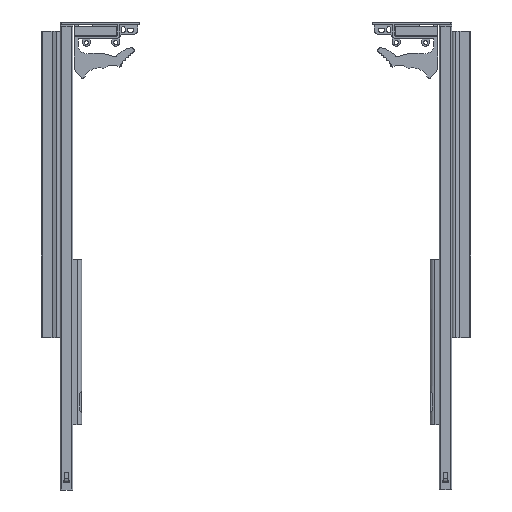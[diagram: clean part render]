
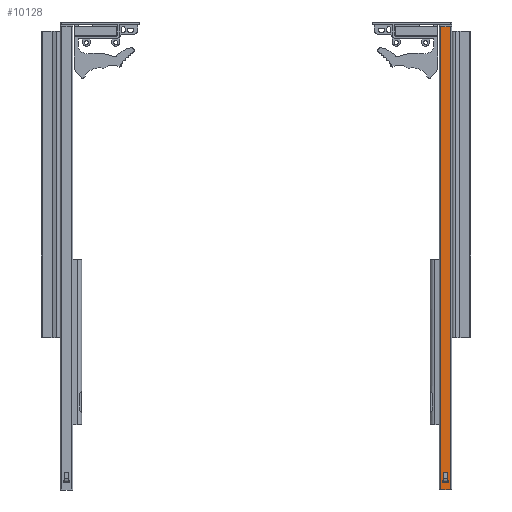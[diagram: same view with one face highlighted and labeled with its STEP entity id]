
A CAD part, front view. The second image highlights one B-rep face of the part: STEP entity #10128.
In plain terms, the highlighted planar face has unit normal (0, -1, 0).
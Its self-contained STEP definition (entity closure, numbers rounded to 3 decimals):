
#221=FACE_BOUND('',#1385,.T.);
#715=FACE_OUTER_BOUND('',#1384,.T.);
#1384=EDGE_LOOP('',(#7781,#7782,#7783,#7784));
#1385=EDGE_LOOP('',(#7785,#7786,#7787,#7788));
#2131=LINE('',#15694,#3123);
#2135=LINE('',#15701,#3127);
#2138=LINE('',#15733,#3130);
#2140=LINE('',#15739,#3132);
#2171=LINE('',#15826,#3163);
#2172=LINE('',#15829,#3164);
#2173=LINE('',#15831,#3165);
#2174=LINE('',#15832,#3166);
#3123=VECTOR('',#12689,10.);
#3127=VECTOR('',#12695,10.);
#3130=VECTOR('',#12700,10.);
#3132=VECTOR('',#12710,10.);
#3163=VECTOR('',#12793,10.);
#3164=VECTOR('',#12796,10.);
#3165=VECTOR('',#12797,10.);
#3166=VECTOR('',#12798,10.);
#4534=VERTEX_POINT('',#15691);
#4535=VERTEX_POINT('',#15693);
#4537=VERTEX_POINT('',#15699);
#4538=VERTEX_POINT('',#15731);
#4567=VERTEX_POINT('',#15822);
#4568=VERTEX_POINT('',#15824);
#4569=VERTEX_POINT('',#15828);
#4570=VERTEX_POINT('',#15830);
#5672=EDGE_CURVE('',#4535,#4534,#2131,.T.);
#5676=EDGE_CURVE('',#4534,#4537,#2135,.T.);
#5680=EDGE_CURVE('',#4537,#4538,#2138,.T.);
#5682=EDGE_CURVE('',#4538,#4535,#2140,.T.);
#5725=EDGE_CURVE('',#4567,#4568,#2171,.T.);
#5726=EDGE_CURVE('',#4567,#4569,#2172,.T.);
#5727=EDGE_CURVE('',#4570,#4568,#2173,.T.);
#5728=EDGE_CURVE('',#4569,#4570,#2174,.T.);
#7781=ORIENTED_EDGE('',*,*,#5726,.F.);
#7782=ORIENTED_EDGE('',*,*,#5725,.T.);
#7783=ORIENTED_EDGE('',*,*,#5727,.F.);
#7784=ORIENTED_EDGE('',*,*,#5728,.F.);
#7785=ORIENTED_EDGE('',*,*,#5672,.T.);
#7786=ORIENTED_EDGE('',*,*,#5676,.T.);
#7787=ORIENTED_EDGE('',*,*,#5680,.T.);
#7788=ORIENTED_EDGE('',*,*,#5682,.T.);
#9428=PLANE('',#10919);
#10128=ADVANCED_FACE('',(#715,#221),#9428,.T.);
#10919=AXIS2_PLACEMENT_3D('',#15827,#12794,#12795);
#12689=DIRECTION('',(0.,0.,-1.));
#12695=DIRECTION('',(-1.,0.,0.));
#12700=DIRECTION('',(0.,0.,1.));
#12710=DIRECTION('',(1.,0.,0.));
#12793=DIRECTION('',(0.,0.,-1.));
#12794=DIRECTION('center_axis',(0.,-1.,0.));
#12795=DIRECTION('ref_axis',(-1.,0.,0.));
#12796=DIRECTION('',(1.,0.,0.));
#12797=DIRECTION('',(-1.,0.,0.));
#12798=DIRECTION('',(0.,0.,-1.));
#15691=CARTESIAN_POINT('',(30.652,8.,-388.597));
#15693=CARTESIAN_POINT('',(30.652,8.,-387.097));
#15694=CARTESIAN_POINT('',(30.652,8.,-139.597));
#15699=CARTESIAN_POINT('',(24.034,8.,-388.597));
#15701=CARTESIAN_POINT('',(29.843,8.,-388.597));
#15731=CARTESIAN_POINT('',(24.034,8.,-387.097));
#15733=CARTESIAN_POINT('',(24.034,8.,-139.597));
#15739=CARTESIAN_POINT('',(29.843,8.,-387.097));
#15822=CARTESIAN_POINT('',(22.343,8.,107.903));
#15824=CARTESIAN_POINT('',(22.343,8.,-397.097));
#15826=CARTESIAN_POINT('',(22.343,8.,107.903));
#15827=CARTESIAN_POINT('Origin',(32.343,8.,107.903));
#15828=CARTESIAN_POINT('',(32.343,8.,107.903));
#15829=CARTESIAN_POINT('',(22.343,8.,107.903));
#15830=CARTESIAN_POINT('',(32.343,8.,-397.097));
#15831=CARTESIAN_POINT('',(22.343,8.,-397.097));
#15832=CARTESIAN_POINT('',(32.343,8.,107.903));
